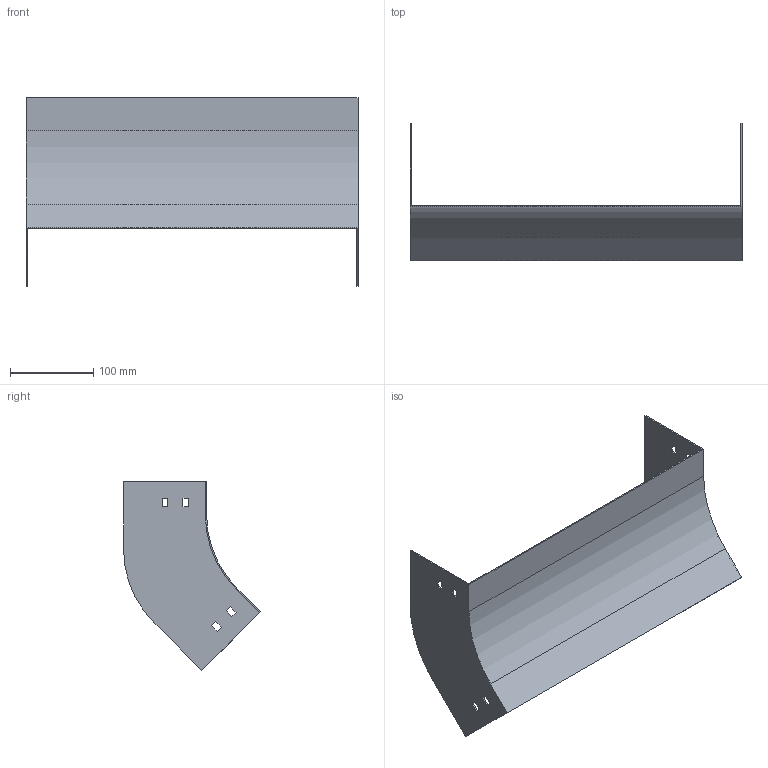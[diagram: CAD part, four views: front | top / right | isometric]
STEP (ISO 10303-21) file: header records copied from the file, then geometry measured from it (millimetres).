
FILE_DESCRIPTION (( 'STEP AP214' ), '1' );
FILE_NAME ('D4_401.step', '2025-07-16T09:07:33', ( '' ), ( '' ), 'SwSTEP 2.0', 'SolidWorks 2023', '' );
FILE_SCHEMA (( 'AUTOMOTIVE_DESIGN' ));
Length unit declared in the file: millimetre
Products named in the file (1): D4_401
Bounding box: 400 x 164.9 x 227.38 mm (x, y, z)
Volume: 173106.3 mm3; surface area: 233788.7 mm2
Topology: 1 solids, 1 shells, 50 faces, 144 edges, 96 vertices
Faces by surface type: plane 46, cylinder 4
Entity records: 1671 total; most frequent: CARTESIAN_POINT 291, ORIENTED_EDGE 288, DIRECTION 254, EDGE_CURVE 144, LINE 136, VECTOR 136, VERTEX_POINT 96, EDGE_LOOP 66
